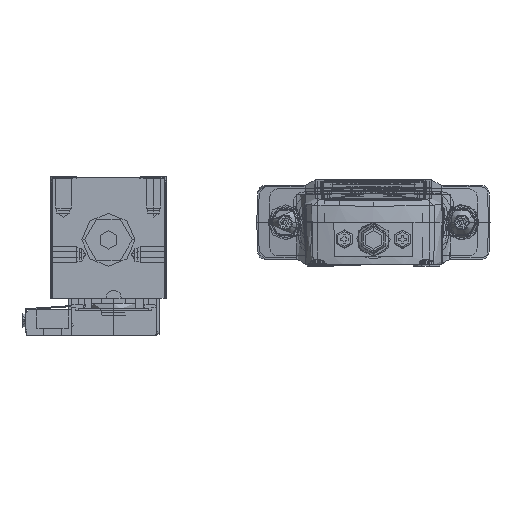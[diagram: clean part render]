
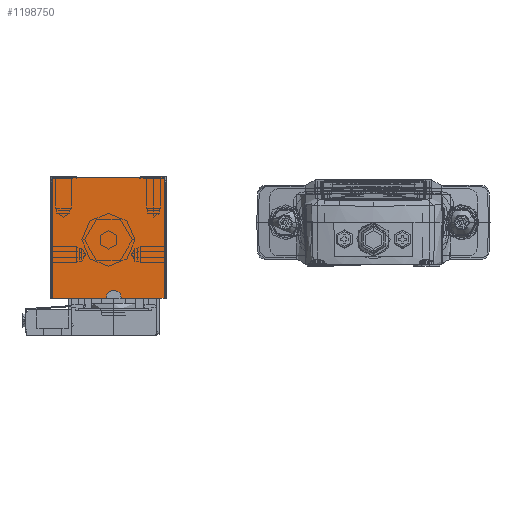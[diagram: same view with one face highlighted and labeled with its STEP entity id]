
A CAD part, left-side view. The second image highlights one B-rep face of the part: STEP entity #1198750.
In plain terms, the highlighted planar face has unit normal (-1, 0, 0).
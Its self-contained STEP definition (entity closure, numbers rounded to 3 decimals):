
#1171320=CARTESIAN_POINT('',(0.,21.5,0.));
#1171330=VERTEX_POINT('',#1171320);
#1171560=CARTESIAN_POINT('',(0.,17.,0.));
#1171570=VERTEX_POINT('',#1171560);
#1171600=CARTESIAN_POINT('',(0.,0.,0.));
#1171610=DIRECTION('',(0.,1.,0.));
#1171620=VECTOR('',#1171610,1.);
#1171630=LINE('',#1171600,#1171620);
#1171640=EDGE_CURVE('',#1171570,#1171330,#1171630,.T.);
#1171880=CARTESIAN_POINT('',(0.,0.5,-8.));
#1171890=VERTEX_POINT('',#1171880);
#1176070=CARTESIAN_POINT('',(0.,21.5,-23.));
#1176080=VERTEX_POINT('',#1176070);
#1176110=CARTESIAN_POINT('',(0.,0.,-23.));
#1176120=DIRECTION('',(0.,-1.,0.));
#1176130=VECTOR('',#1176120,1.);
#1176140=LINE('',#1176110,#1176130);
#1176150=CARTESIAN_POINT('',(0.,11.4,-23.));
#1176160=VERTEX_POINT('',#1176150);
#1176170=EDGE_CURVE('',#1176080,#1176160,#1176140,.T.);
#1176390=CARTESIAN_POINT('',(0.,8.6,-23.));
#1176400=VERTEX_POINT('',#1176390);
#1176430=CARTESIAN_POINT('',(0.,0.,-23.));
#1176440=DIRECTION('',(0.,1.,0.));
#1176450=VECTOR('',#1176440,1.);
#1176460=LINE('',#1176430,#1176450);
#1176470=CARTESIAN_POINT('',(0.,0.5,-23.));
#1176480=VERTEX_POINT('',#1176470);
#1176490=EDGE_CURVE('',#1176480,#1176400,#1176460,.T.);
#1184860=CARTESIAN_POINT('',(0.,0.5,0.));
#1184870=DIRECTION('',(0.,0.,-1.));
#1184880=VECTOR('',#1184870,1.);
#1184890=LINE('',#1184860,#1184880);
#1184900=CARTESIAN_POINT('',(0.,0.5,-7.9));
#1184910=VERTEX_POINT('',#1184900);
#1184920=EDGE_CURVE('',#1184910,#1171890,#1184890,.T.);
#1185790=CARTESIAN_POINT('',(0.,0.2,-1.1));
#1185800=VERTEX_POINT('',#1185790);
#1185830=CARTESIAN_POINT('',(0.,1.1,-1.1));
#1185840=DIRECTION('',(1.,0.,0.));
#1185850=DIRECTION('',(0.,-1.,0.));
#1185860=AXIS2_PLACEMENT_3D('',#1185830,#1185840,#1185850);
#1185870=CIRCLE('',#1185860,0.9);
#1185880=CARTESIAN_POINT('',(0.,1.1,-0.2));
#1185890=VERTEX_POINT('',#1185880);
#1185900=EDGE_CURVE('',#1185890,#1185800,#1185870,.T.);
#1186680=CARTESIAN_POINT('',(0.,21.5,-11.5));
#1186690=DIRECTION('',(0.,0.,-1.));
#1186700=VECTOR('',#1186690,1.);
#1186710=LINE('',#1186680,#1186700);
#1186720=EDGE_CURVE('',#1171330,#1176080,#1186710,.T.);
#1187650=CARTESIAN_POINT('',(0.,10.2,-22.8));
#1187660=DIRECTION('',(1.,0.,0.));
#1187670=DIRECTION('',(0.,-1.,0.));
#1187680=AXIS2_PLACEMENT_3D('',#1187650,#1187660,#1187670);
#1187690=CIRCLE('',#1187680,1.2);
#1187700=CARTESIAN_POINT('',(0.,11.4,-22.8));
#1187710=VERTEX_POINT('',#1187700);
#1187720=CARTESIAN_POINT('',(0.,10.2,-21.6));
#1187730=VERTEX_POINT('',#1187720);
#1187740=EDGE_CURVE('',#1187710,#1187730,#1187690,.T.);
#1188770=CARTESIAN_POINT('',(0.,0.5,-15.5));
#1188780=DIRECTION('',(0.,0.,-1.));
#1188790=VECTOR('',#1188780,1.);
#1188800=LINE('',#1188770,#1188790);
#1188810=EDGE_CURVE('',#1171890,#1176480,#1188800,.T.);
#1188930=CARTESIAN_POINT('',(0.,9.8,-22.8));
#1188940=DIRECTION('',(1.,0.,0.));
#1188950=DIRECTION('',(0.,-1.,0.));
#1188960=AXIS2_PLACEMENT_3D('',#1188930,#1188940,#1188950);
#1188970=CIRCLE('',#1188960,1.2);
#1188980=CARTESIAN_POINT('',(0.,9.8,-21.6));
#1188990=VERTEX_POINT('',#1188980);
#1189000=CARTESIAN_POINT('',(0.,8.6,-22.8));
#1189010=VERTEX_POINT('',#1189000);
#1189020=EDGE_CURVE('',#1188990,#1189010,#1188970,.T.);
#1191270=CARTESIAN_POINT('',(0.,0.,-21.6));
#1191280=DIRECTION('',(0.,1.,0.));
#1191290=VECTOR('',#1191280,1.);
#1191300=LINE('',#1191270,#1191290);
#1191310=EDGE_CURVE('',#1188990,#1187730,#1191300,.T.);
#1191580=CARTESIAN_POINT('',(0.,17.,-0.5));
#1191590=VERTEX_POINT('',#1191580);
#1191640=CARTESIAN_POINT('',(0.,17.,0.));
#1191650=DIRECTION('',(0.,0.,-1.));
#1191660=VECTOR('',#1191650,1.);
#1191670=LINE('',#1191640,#1191660);
#1191680=EDGE_CURVE('',#1171570,#1191590,#1191670,.T.);
#1192350=CARTESIAN_POINT('',(0.,11.4,0.));
#1192360=DIRECTION('',(0.,0.,-1.));
#1192370=VECTOR('',#1192360,1.);
#1192380=LINE('',#1192350,#1192370);
#1192390=EDGE_CURVE('',#1187710,#1176160,#1192380,.T.);
#1195070=CARTESIAN_POINT('',(0.,8.6,0.));
#1195080=DIRECTION('',(0.,0.,1.));
#1195090=VECTOR('',#1195080,1.);
#1195100=LINE('',#1195070,#1195090);
#1195110=EDGE_CURVE('',#1176400,#1189010,#1195100,.T.);
#1197740=CARTESIAN_POINT('',(0.,5.646,-7.9));
#1197750=DIRECTION('',(0.,1.,0.));
#1197760=VECTOR('',#1197750,1.);
#1197770=LINE('',#1197740,#1197760);
#1197780=CARTESIAN_POINT('',(0.,0.2,-7.9));
#1197790=VERTEX_POINT('',#1197780);
#1197800=EDGE_CURVE('',#1197790,#1184910,#1197770,.T.);
#1198260=CARTESIAN_POINT('',(0.,21.9,-6.));
#1198270=DIRECTION('',(-1.,-0.,-0.));
#1198280=DIRECTION('',(0.,0.,-1.));
#1198290=AXIS2_PLACEMENT_3D('',#1198260,#1198270,#1198280);
#1198300=PLANE('',#1198290);
#1198310=CARTESIAN_POINT('',(0.,5.646,
-0.2));
#1198320=DIRECTION('',(0.,-1.,0.));
#1198330=VECTOR('',#1198320,1.);
#1198340=LINE('',#1198310,#1198330);
#1198350=CARTESIAN_POINT('',(0.,16.95,-0.2));
#1198360=VERTEX_POINT('',#1198350);
#1198370=EDGE_CURVE('',#1198360,#1185890,#1198340,.T.);
#1198380=ORIENTED_EDGE('',*,*,#1198370,.F.);
#1198390=ORIENTED_EDGE('',*,*,#1185900,.F.);
#1198400=CARTESIAN_POINT('',(0.,0.2,
-0.2));
#1198410=DIRECTION('',(0.,0.,-1.));
#1198420=VECTOR('',#1198410,1.);
#1198430=LINE('',#1198400,#1198420);
#1198440=EDGE_CURVE('',#1185800,#1197790,#1198430,.T.);
#1198450=ORIENTED_EDGE('',*,*,#1198440,.F.);
#1198460=ORIENTED_EDGE('',*,*,#1197800,.F.);
#1198470=ORIENTED_EDGE('',*,*,#1184920,.F.);
#1198480=ORIENTED_EDGE('',*,*,#1188810,.F.);
#1198490=ORIENTED_EDGE('',*,*,#1176490,.F.);
#1198500=ORIENTED_EDGE('',*,*,#1195110,.F.);
#1198510=ORIENTED_EDGE('',*,*,#1189020,.T.);
#1198520=ORIENTED_EDGE('',*,*,#1191310,.F.);
#1198530=ORIENTED_EDGE('',*,*,#1187740,.T.);
#1198540=ORIENTED_EDGE('',*,*,#1192390,.F.);
#1198550=ORIENTED_EDGE('',*,*,#1176170,.T.);
#1198560=ORIENTED_EDGE('',*,*,#1186720,.T.);
#1198570=ORIENTED_EDGE('',*,*,#1171640,.T.);
#1198580=ORIENTED_EDGE('',*,*,#1191680,.F.);
#1198590=CARTESIAN_POINT('',(0.,0.,-0.5));
#1198600=DIRECTION('',(0.,1.,0.));
#1198610=VECTOR('',#1198600,1.);
#1198620=LINE('',#1198590,#1198610);
#1198630=CARTESIAN_POINT('',(0.,16.95,-0.5));
#1198640=VERTEX_POINT('',#1198630);
#1198650=EDGE_CURVE('',#1198640,#1191590,#1198620,.T.);
#1198660=ORIENTED_EDGE('',*,*,#1198650,.T.);
#1198670=CARTESIAN_POINT('',(0.,16.95,-0.8));
#1198680=DIRECTION('',(0.,0.,1.));
#1198690=VECTOR('',#1198680,1.);
#1198700=LINE('',#1198670,#1198690);
#1198710=EDGE_CURVE('',#1198640,#1198360,#1198700,.T.);
#1198720=ORIENTED_EDGE('',*,*,#1198710,.F.);
#1198730=EDGE_LOOP('',(#1198720,#1198660,#1198580,#1198570,#1198560,
#1198550,#1198540,#1198530,#1198520,#1198510,#1198500,#1198490,#1198480,
#1198470,#1198460,#1198450,#1198390,#1198380));
#1198740=FACE_OUTER_BOUND('',#1198730,.T.);
#1198750=ADVANCED_FACE('',(#1198740),#1198300,.T.);
